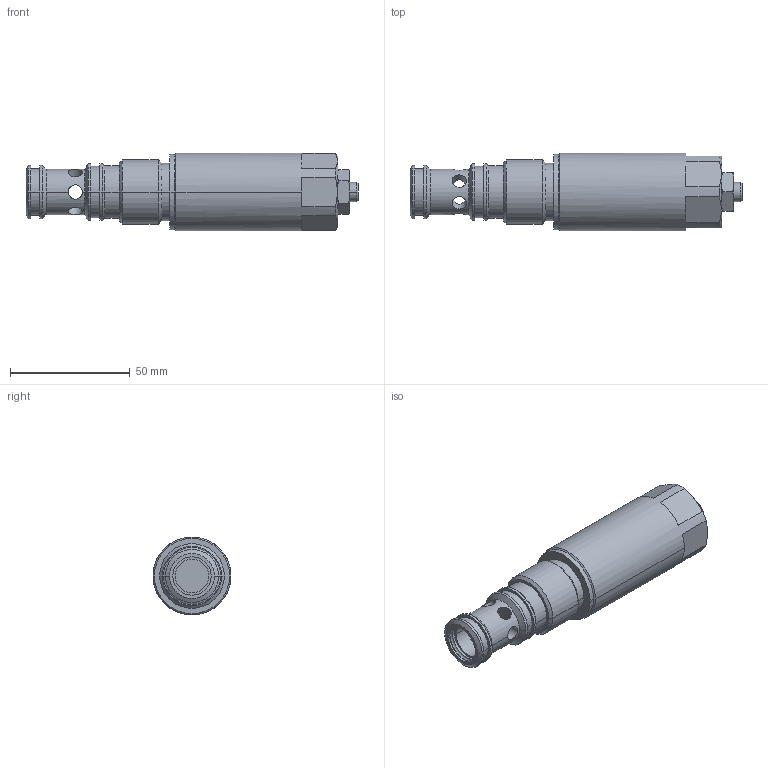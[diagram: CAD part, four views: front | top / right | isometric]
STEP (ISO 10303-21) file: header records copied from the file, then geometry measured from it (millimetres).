
FILE_DESCRIPTION((''),'2;1');
FILE_NAME('SL2H_CP3_H2L11_S','2024-12-06T10:17:44',('l.soukupova'),(''),'CREO PARAMETRIC BY PTC INC, 2023254','CREO PARAMETRIC BY PTC INC, 2023254','');
FILE_SCHEMA(('AUTOMOTIVE_DESIGN { 1 0 10303 214 1 1 1 1 }'));
Length unit declared in the file: millimetre
Products named in the file (1): SL2H_CP3_H2L11_S
Bounding box: 138.5 x 32.5 x 32.5 mm (x, y, z)
Volume: 79488.3 mm3; surface area: 15002.3 mm2
Topology: 1 solids, 1 shells, 117 faces, 274 edges, 164 vertices
Faces by surface type: cylinder 46, plane 37, cone 30, torus 4
Entity records: 5131 total; most frequent: CARTESIAN_POINT 1497, DIRECTION 562, ORIENTED_EDGE 548, PRESENTATION_STYLE_ASSIGNMENT 279, STYLED_ITEM 275, CURVE_STYLE 274, EDGE_CURVE 274, AXIS2_PLACEMENT_3D 221
